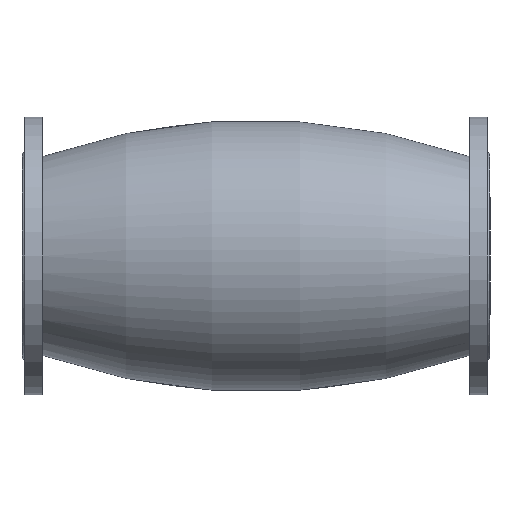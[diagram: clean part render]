
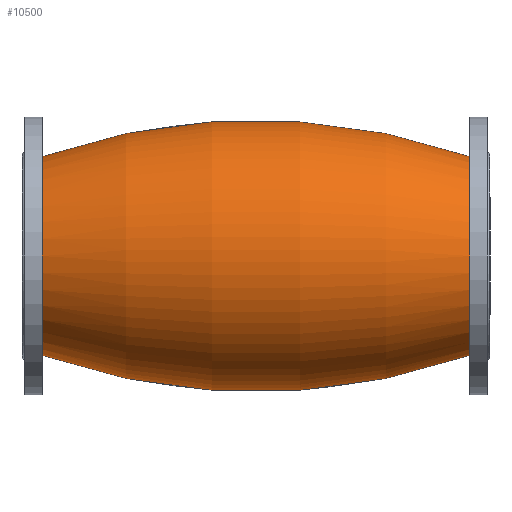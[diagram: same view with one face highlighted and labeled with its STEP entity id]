
A CAD part, front view. The second image highlights one B-rep face of the part: STEP entity #10500.
In plain terms, the highlighted toroidal (fillet/blend) face has major radius 528.398 mm and minor radius 667.465 mm.
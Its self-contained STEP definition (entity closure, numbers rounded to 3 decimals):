
#244 = VERTEX_POINT ( 'NONE', #3695 ) ;
#1144 = AXIS2_PLACEMENT_3D ( 'NONE', #10799, #11812, #2086 ) ;
#1837 = CARTESIAN_POINT ( 'NONE',  ( 26.283, 0., -1.5 ) ) ;
#1875 = CIRCLE ( 'NONE', #9801, 101.983 ) ;
#2086 = DIRECTION ( 'NONE',  ( 0., 0., -1. ) ) ;
#2111 = VERTEX_POINT ( 'NONE', #6766 ) ;
#2999 = DIRECTION ( 'NONE',  ( 0., 1., 0. ) ) ;
#3191 = EDGE_LOOP ( 'NONE', ( #4927, #3659, #4791, #11251 ) ) ;
#3659 = ORIENTED_EDGE ( 'NONE', *, *, #4182, .T. ) ;
#3695 = CARTESIAN_POINT ( 'NONE',  ( 26.283, 0., 100.483 ) ) ;
#3800 = DIRECTION ( 'NONE',  ( 0., 0., 1. ) ) ;
#4182 = EDGE_CURVE ( 'NONE', #2111, #244, #4808, .T. ) ;
#4791 = ORIENTED_EDGE ( 'NONE', *, *, #7670, .T. ) ;
#4808 = CIRCLE ( 'NONE', #7052, 667.465 ) ;
#4927 = ORIENTED_EDGE ( 'NONE', *, *, #8616, .T. ) ;
#4988 = EDGE_CURVE ( 'NONE', #10242, #8226, #9502, .T. ) ;
#5486 = CARTESIAN_POINT ( 'NONE',  ( 465.051, 0., -1.5 ) ) ;
#5727 = CARTESIAN_POINT ( 'NONE',  ( 245.667, 0., 526.898 ) ) ;
#6327 = CIRCLE ( 'NONE', #10391, 101.983 ) ;
#6575 = DIRECTION ( 'NONE',  ( 0., -1., 0. ) ) ;
#6766 = CARTESIAN_POINT ( 'NONE',  ( 465.051, 0., 100.483 ) ) ;
#6886 = DIRECTION ( 'NONE',  ( 0., 0., 1. ) ) ;
#7052 = AXIS2_PLACEMENT_3D ( 'NONE', #8370, #6575, #12241 ) ;
#7304 = CARTESIAN_POINT ( 'NONE',  ( 26.283, 0., -103.483 ) ) ;
#7670 = EDGE_CURVE ( 'NONE', #244, #8226, #1875, .T. ) ;
#8222 = DIRECTION ( 'NONE',  ( 0., 0., 1. ) ) ;
#8226 = VERTEX_POINT ( 'NONE', #7304 ) ;
#8370 = CARTESIAN_POINT ( 'NONE',  ( 245.667, 0., -529.898 ) ) ;
#8616 = EDGE_CURVE ( 'NONE', #10242, #2111, #6327, .T. ) ;
#8900 = FACE_OUTER_BOUND ( 'NONE', #3191, .T. ) ;
#9371 = DIRECTION ( 'NONE',  ( -1., 0., 0. ) ) ;
#9407 = CARTESIAN_POINT ( 'NONE',  ( 465.051, 0., -103.483 ) ) ;
#9502 = CIRCLE ( 'NONE', #10309, 667.465 ) ;
#9649 = DIRECTION ( 'NONE',  ( 1., 0., 0. ) ) ;
#9801 = AXIS2_PLACEMENT_3D ( 'NONE', #1837, #9649, #3800 ) ;
#9866 = TOROIDAL_SURFACE ( 'NONE', #1144, -528.398, 667.465 ) ;
#10242 = VERTEX_POINT ( 'NONE', #9407 ) ;
#10309 = AXIS2_PLACEMENT_3D ( 'NONE', #5727, #2999, #6886 ) ;
#10391 = AXIS2_PLACEMENT_3D ( 'NONE', #5486, #9371, #8222 ) ;
#10500 = ADVANCED_FACE ( 'NONE', ( #8900 ), #9866, .T. ) ;
#10799 = CARTESIAN_POINT ( 'NONE',  ( 245.667, 0., -1.5 ) ) ;
#11251 = ORIENTED_EDGE ( 'NONE', *, *, #4988, .F. ) ;
#11812 = DIRECTION ( 'NONE',  ( -1., 0., 0. ) ) ;
#12241 = DIRECTION ( 'NONE',  ( 0., 0., -1. ) ) ;
